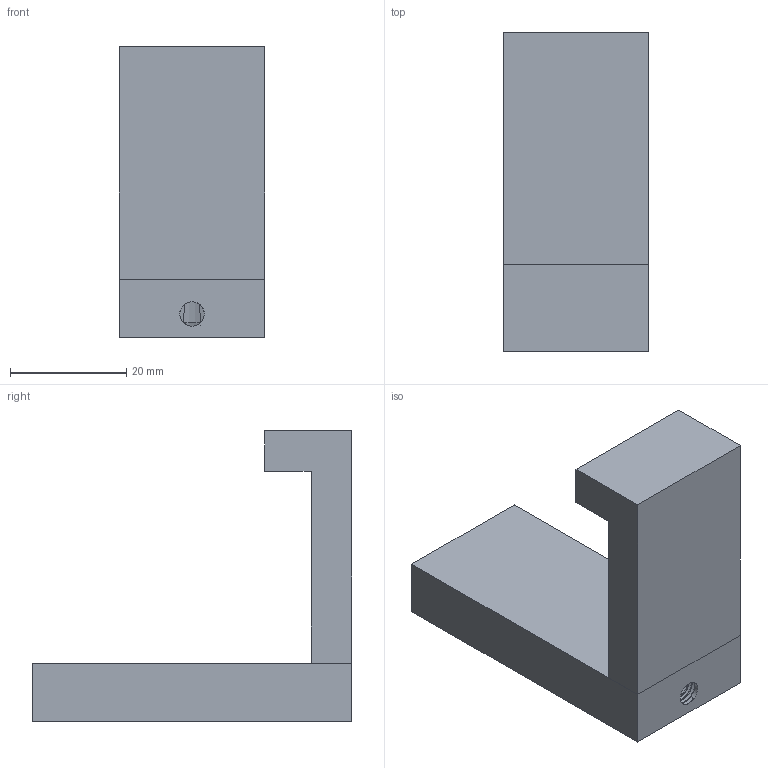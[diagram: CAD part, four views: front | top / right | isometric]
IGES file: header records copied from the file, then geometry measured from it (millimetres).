
Global section: file name: fa6f8e1c-df35-4e4e-811c-c9e38825966d; native system: unknown; preprocessor: unknown; author: unknown; organization: unknown; date: 20200108.081103; units: millimetre
Bounding box: 25 x 55 x 50 mm (x, y, z)
Volume: 14416.2 mm3; surface area: 11443.1 mm2
Topology: 3 solids, 3 shells, 131 faces, 332 edges, 209 vertices
Faces by surface type: bspline 131
